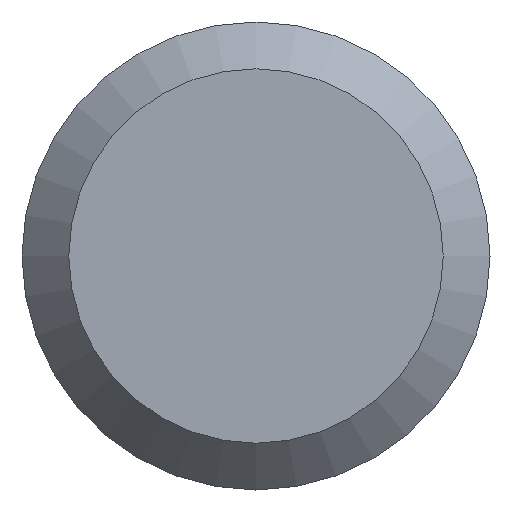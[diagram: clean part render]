
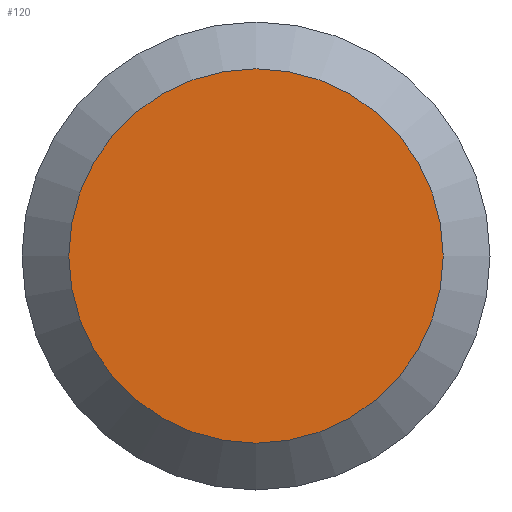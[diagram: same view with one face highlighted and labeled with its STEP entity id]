
A CAD part, left-side view. The second image highlights one B-rep face of the part: STEP entity #120.
In plain terms, the highlighted planar face has unit normal (-1, 0, 0).
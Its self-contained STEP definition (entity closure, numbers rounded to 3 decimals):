
#3 = DIRECTION ( 'NONE',  ( -1., 0., 0. ) ) ;
#25 = EDGE_CURVE ( 'NONE', #82, #82, #131, .T. ) ;
#39 = AXIS2_PLACEMENT_3D ( 'NONE', #96, #186, #110 ) ;
#79 = PLANE ( 'NONE',  #39 ) ;
#82 = VERTEX_POINT ( 'NONE', #144 ) ;
#89 = ORIENTED_EDGE ( 'NONE', *, *, #25, .T. ) ;
#91 = DIRECTION ( 'NONE',  ( 0., 0., -1. ) ) ;
#96 = CARTESIAN_POINT ( 'NONE',  ( 0., 6.35, 0. ) ) ;
#110 = DIRECTION ( 'NONE',  ( 0., 0., -1. ) ) ;
#120 = ADVANCED_FACE ( 'NONE', ( #200 ), #79, .F. ) ;
#131 = CIRCLE ( 'NONE', #207, 5.08 ) ;
#137 = EDGE_LOOP ( 'NONE', ( #89 ) ) ;
#144 = CARTESIAN_POINT ( 'NONE',  ( 0., 0., -5.08 ) ) ;
#186 = DIRECTION ( 'NONE',  ( 1., 0., 0. ) ) ;
#198 = CARTESIAN_POINT ( 'NONE',  ( 0., 0., 0. ) ) ;
#200 = FACE_OUTER_BOUND ( 'NONE', #137, .T. ) ;
#207 = AXIS2_PLACEMENT_3D ( 'NONE', #198, #3, #91 ) ;
